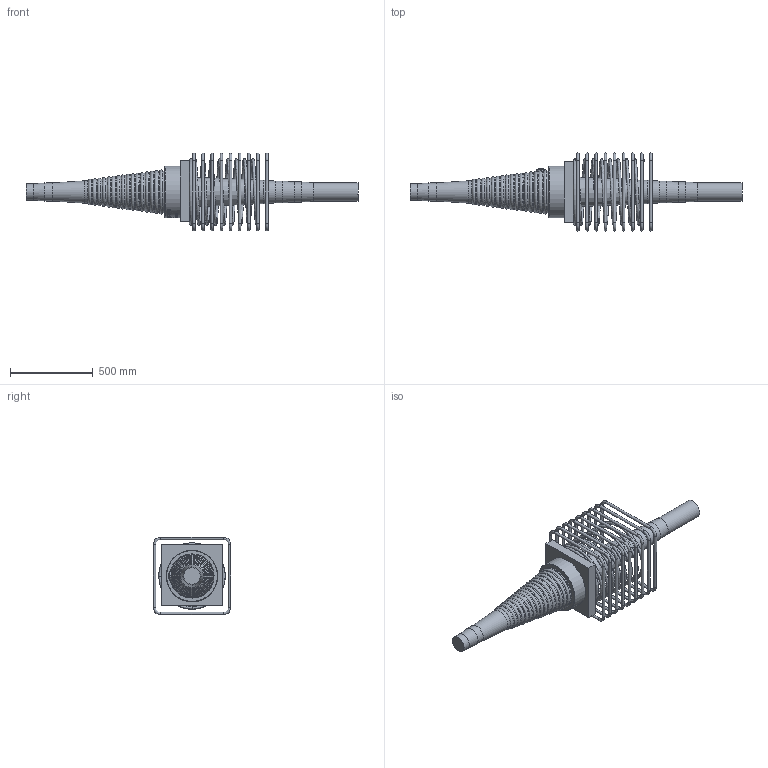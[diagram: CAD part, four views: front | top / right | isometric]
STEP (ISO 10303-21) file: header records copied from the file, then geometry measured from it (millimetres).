
FILE_DESCRIPTION(/* description */ (''),/* implementation_level */ '2;1');
FILE_NAME(/* name */ 'Z:\04 Publications\05 Give-out\BBR\6_3D_Models\BBR VT CONA CMI\BBR VT CONA CMI SP\02206\BBR VT CONA CMI SP 2206_Couler K Assembly_CS-34,28.stp',/* time_stamp */ '2017-05-09T09:46:34+02:00',/* author */ ('IP'),/* organization */ (''),/* preprocessor_version */ 'ST-DEVELOPER v16.1',/* originating_system */ 'Autodesk Inventor 2016',/* authorisation */ '');
FILE_SCHEMA (('AUTOMOTIVE_DESIGN { 1 0 10303 214 3 1 1 }'));
Products named in the file (1): BBR VT CONA CMI SP 2206_Couler K Assembly_CS-34,28
Bounding box: 2002 x 470 x 470 mm (x, y, z)
Volume: 54804752.1 mm3; surface area: 2621848.9 mm2
Topology: 11 solids, 11 shells, 903 faces, 2336 edges, 1496 vertices
Faces by surface type: bspline 425, plane 256, cylinder 109, torus 95, cone 18
Full cylindrical faces by diameter (mm): 16 x36, 33 x1, 56 x1, 99 x1, 109 x1, 111.725 x1, 121.793 x1, 131.862 x1, 141.932 x1, 305 x1, 310 x1
Entity records: 41087 total; most frequent: CARTESIAN_POINT 21991, ORIENTED_EDGE 4350, DIRECTION 2718, EDGE_CURVE 2172, VERTEX_POINT 1492, EDGE_LOOP 1127, AXIS2_PLACEMENT_3D 919, FACE_OUTER_BOUND 903
